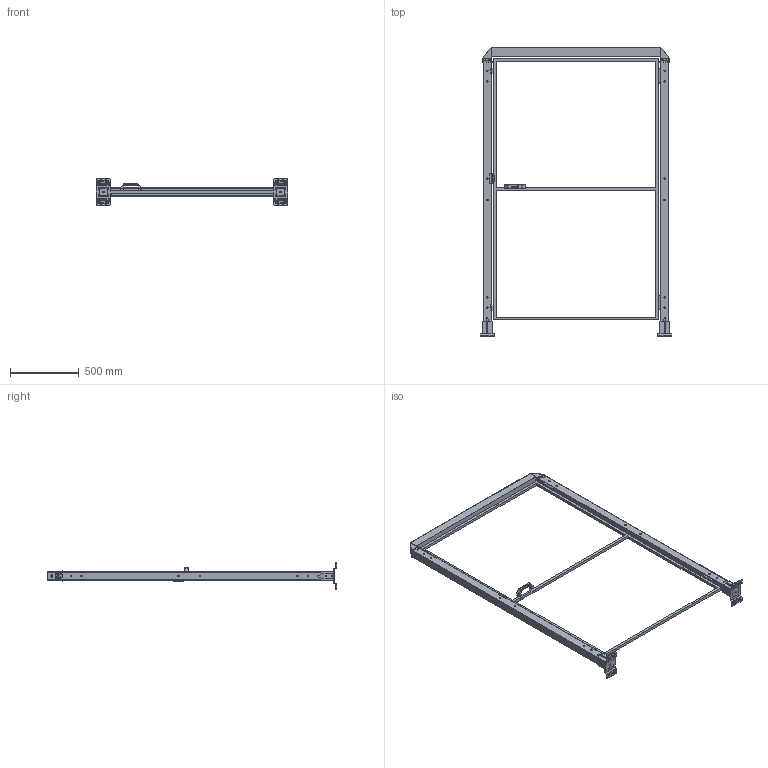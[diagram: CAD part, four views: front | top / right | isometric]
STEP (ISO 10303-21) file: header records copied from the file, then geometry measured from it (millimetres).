
FILE_DESCRIPTION(('STEP AP242'),'1');
FILE_NAME('vfda_bscncr2_12002020.stp','2025-01-23T13:57:20',('TraceParts'),('TraceParts S.A.'),'Spatial InterOp 3D',' ',' ');
FILE_SCHEMA(('AP242_MANAGED_MODEL_BASED_3D_ENGINEERING_MIM_LF {1 0 10303 442 1 1 4}'));
Length unit declared in the file: millimetre
Products named in the file (1): vfda_bscncr2_12002020_1
Bounding box: 1390 x 2101 x 192 mm (x, y, z)
Volume: 5321752.4 mm3; surface area: 3354060 mm2
Topology: 12 solids, 12 shells, 1942 faces, 5208 edges, 3340 vertices
Faces by surface type: plane 950, cylinder 652, bspline 236, cone 60, torus 40, sphere 4
Entity records: 78408 total; most frequent: CARTESIAN_POINT 14215, ORIENTED_EDGE 10408, DIRECTION 9578, EDGE_CURVE 5204, VERTEX_POINT 3340, LINE 3216, VECTOR 3216, AXIS2_PLACEMENT_3D 3181
